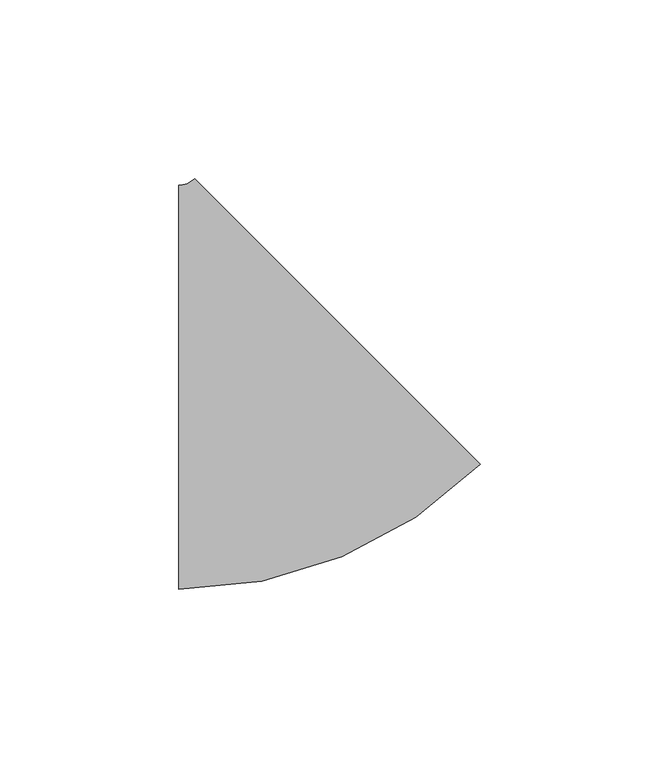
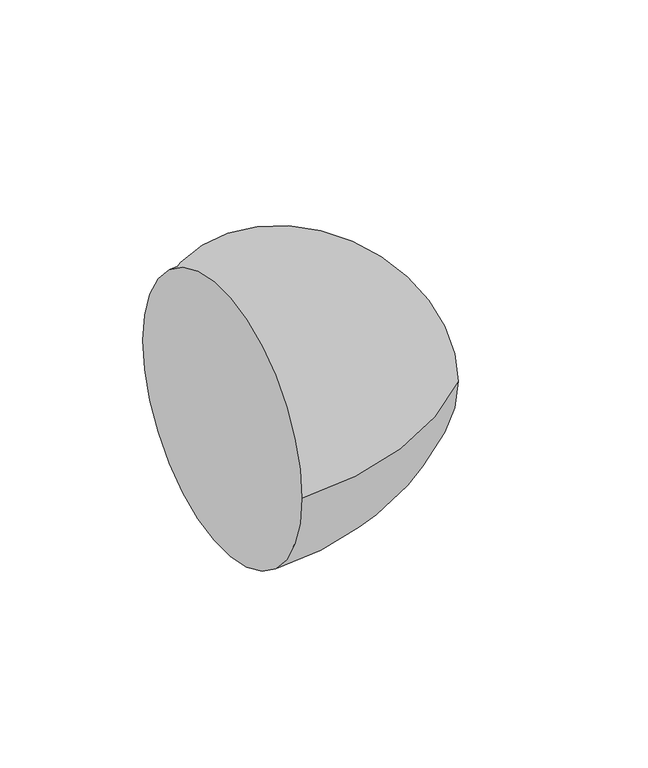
"""IFC4 building model written with IfcOpenShell, lengths in millimetres: pipe fitting geometry, M_Codo - Genérico : Estándar."""

from ifc_helpers import new_model, si_unit, point, frame, origin, place, context, project, spatial, circle_curve, ellipse_curve, trimmed, source, transform, mapped, element, save
from ifc_brep_helpers import plane_surface, revolved_surface, advanced_brep


def pipe_fitting_754398a6(model_context):
    return source(origin(), model_context, "Body", "AdvancedBrep", [
        advanced_brep(
        [(-26.0680469, -56.5875, 0.0), (-26.0680469, 56.5875, 0.0), (58.4454084, -21.5829206, 0.0), (-21.5781039, 58.4471869, 0.0)],
        [
            (0, 1, circle_curve(frame((-26.0680469, 0.0, 0.0), z_axis=(-1.0, 0.0, 0.0), x_axis=(0.0, 1.0, 0.0)), 56.5875)),
            (1, 0, circle_curve(frame((-26.0680469, 0.0, 0.0), z_axis=(-1.0, 0.0, 0.0), x_axis=(0.0, 1.0, 0.0)), 56.5875)),
            (2, 3, circle_curve(frame((18.4336523, 18.4321332, 0.0), z_axis=(0.7071359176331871, 0.7070776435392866, 0.0), x_axis=(-0.7070776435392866, 0.7071359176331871, 0.0)), 56.5875)),
            (3, 2, circle_curve(frame((18.4336523, 18.4321332, 0.0), z_axis=(0.7071359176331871, 0.7070776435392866, 0.0), x_axis=(-0.7070776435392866, 0.7071359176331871, 0.0)), 56.5875)),
            (3, 1, circle_curve(frame((-26.0680469, 62.9375, 0.0), z_axis=(0.0, 0.0, -1.0), x_axis=(0.0, -1.0, 0.0)), 6.35)),
            (0, 2, circle_curve(frame((-26.0680469, 62.9375, 0.0), z_axis=(0.0, 0.0, 1.0), x_axis=(0.0, -1.0, 0.0)), 119.525)),
        ],
        [
            plane_surface(frame((-26.0680469, 0.0, 0.0), z_axis=(-1.0, 0.0, 0.0), x_axis=(0.0, 0.0, 1.0))),
            plane_surface(frame((18.4336523, 18.4321332, 0.0), z_axis=(0.7071359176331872, 0.7070776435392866, 0.0), x_axis=(0.0, 0.0, 1.0))),
            revolved_surface(trimmed(ellipse_curve(frame((-26.0680469, 0.0, 0.0), z_axis=(-1.0, 0.0, 0.0), x_axis=(0.0, 1.0, 0.0)), 56.5875, 56.5875), [point((-26.0680469, -56.5875, 0.0))], [point((-26.0680469, 56.5875, 0.0))], True, "CARTESIAN"), (-26.0680469, 62.9375, 0.0), (0.0, 0.0, 1.0)),
            revolved_surface(trimmed(ellipse_curve(frame((-26.0680469, 0.0, 0.0), z_axis=(-1.0, 0.0, 0.0), x_axis=(0.0, 1.0, 0.0)), 56.5875, 56.5875), [point((-26.0680469, 56.5875, 0.0))], [point((-26.0680469, -56.5875, 0.0))], True, "CARTESIAN"), (-26.0680469, 62.9375, 0.0), (0.0, 0.0, 1.0)),
        ],
        [
            (0, [[1, 2]]),
            (1, [[3, 4]]),
            (2, [[5, -1, 6, -4]]),
            (3, [[-6, -2, -5, -3]]),
        ],
    ),
    ])


if __name__ == "__main__":
    model = new_model("IFC4")
    model_context = context("Model", 3, world=origin())
    ifc_project = project(units=[si_unit("LENGTHUNIT", "METRE", prefix="MILLI")], contexts=[model_context])
    site = spatial("IfcSite", under=ifc_project)
    building = spatial("IfcBuilding", under=site)
    placement = place(None, origin())
    pipe_fitting_shape = pipe_fitting_754398a6(model_context)
    element("IfcPipeFitting", 1, ObjectType="M_Codo - Genérico : Estándar", at=placement, inside=building, context=model_context, shape_type="MappedRepresentation", body=[
        mapped(pipe_fitting_shape, transform((0.0, 0.0, 0.0), x_axis=(1.0, 0.0, 0.0), y_axis=(0.0, 1.0, 0.0), z_axis=(0.0, 0.0, 1.0))),
    ])
    save(model, "model.ifc")
